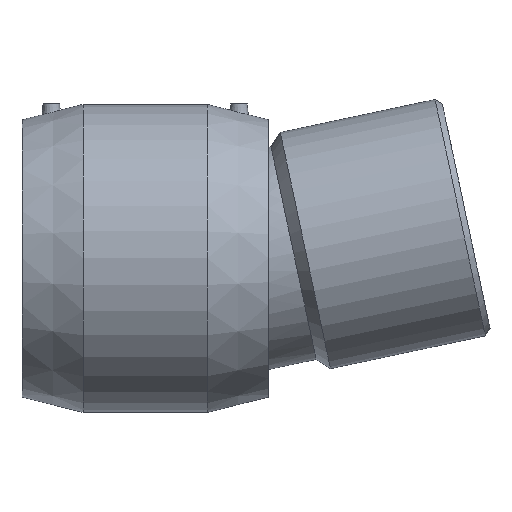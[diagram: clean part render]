
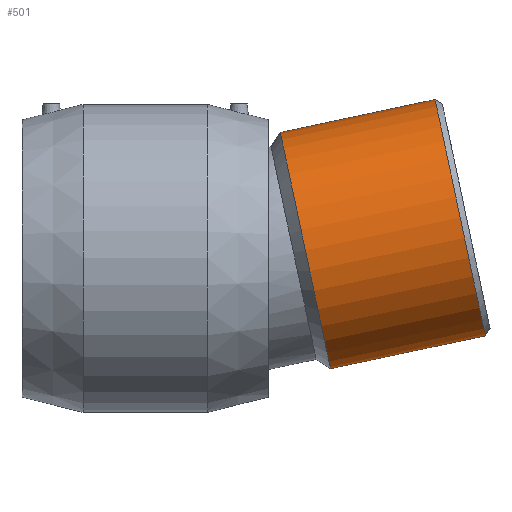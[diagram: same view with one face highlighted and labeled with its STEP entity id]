
A CAD part, top view. The second image highlights one B-rep face of the part: STEP entity #501.
In plain terms, the highlighted cylindrical face has radius 109.35 mm (diameter 218.7 mm), a full revolution.
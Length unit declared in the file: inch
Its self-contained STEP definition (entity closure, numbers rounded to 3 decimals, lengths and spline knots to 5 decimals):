
#21=CYLINDRICAL_SURFACE('',#561,4.30512);
#56=LINE('',#871,#74);
#74=VECTOR('',#663,4.30512);
#101=FACE_OUTER_BOUND('',#134,.T.);
#134=EDGE_LOOP('',(#360,#361,#362,#363,#364,#365));
#182=CIRCLE('',#555,4.30512);
#183=CIRCLE('',#556,4.30512);
#187=CIRCLE('',#562,4.30512);
#188=CIRCLE('',#563,4.30512);
#227=VERTEX_POINT('',#854);
#228=VERTEX_POINT('',#855);
#232=VERTEX_POINT('',#867);
#233=VERTEX_POINT('',#868);
#278=EDGE_CURVE('',#227,#228,#182,.T.);
#279=EDGE_CURVE('',#228,#227,#183,.T.);
#284=EDGE_CURVE('',#232,#233,#187,.T.);
#285=EDGE_CURVE('',#233,#232,#188,.T.);
#286=EDGE_CURVE('',#233,#228,#56,.T.);
#360=ORIENTED_EDGE('',*,*,#284,.F.);
#361=ORIENTED_EDGE('',*,*,#285,.F.);
#362=ORIENTED_EDGE('',*,*,#286,.T.);
#363=ORIENTED_EDGE('',*,*,#278,.F.);
#364=ORIENTED_EDGE('',*,*,#279,.F.);
#365=ORIENTED_EDGE('',*,*,#286,.F.);
#501=ADVANCED_FACE('',(#101),#21,.T.);
#555=AXIS2_PLACEMENT_3D('',#856,#644,#645);
#556=AXIS2_PLACEMENT_3D('',#857,#646,#647);
#561=AXIS2_PLACEMENT_3D('',#866,#657,#658);
#562=AXIS2_PLACEMENT_3D('',#869,#659,#660);
#563=AXIS2_PLACEMENT_3D('',#870,#661,#662);
#644=DIRECTION('center_axis',(0.978,0.208,0.));
#645=DIRECTION('ref_axis',(-0.208,0.978,0.));
#646=DIRECTION('center_axis',(0.978,0.208,0.));
#647=DIRECTION('ref_axis',(-0.208,0.978,0.));
#657=DIRECTION('center_axis',(-0.978,-0.208,0.));
#658=DIRECTION('ref_axis',(0.208,-0.978,0.));
#659=DIRECTION('center_axis',(-0.978,-0.208,0.));
#660=DIRECTION('ref_axis',(0.208,-0.978,0.));
#661=DIRECTION('center_axis',(-0.978,-0.208,0.));
#662=DIRECTION('ref_axis',(0.208,-0.978,0.));
#663=DIRECTION('',(0.978,0.208,0.));
#854=CARTESIAN_POINT('',(12.12357,-2.75782,0.));
#855=CARTESIAN_POINT('',(10.33341,5.66426,0.));
#856=CARTESIAN_POINT('Origin',(11.22849,1.45322,0.));
#857=CARTESIAN_POINT('Origin',(11.22849,1.45322,0.));
#866=CARTESIAN_POINT('Origin',(8.57732,0.8897,0.));
#867=CARTESIAN_POINT('',(6.60643,-3.93053,0.));
#868=CARTESIAN_POINT('',(4.81626,4.49156,0.));
#869=CARTESIAN_POINT('Origin',(5.71135,0.28052,0.));
#870=CARTESIAN_POINT('Origin',(5.71135,0.28052,0.));
#871=CARTESIAN_POINT('',(7.68223,5.10074,0.));
